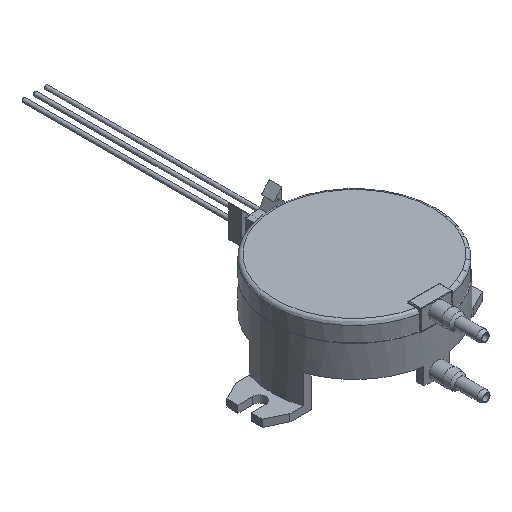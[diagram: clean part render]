
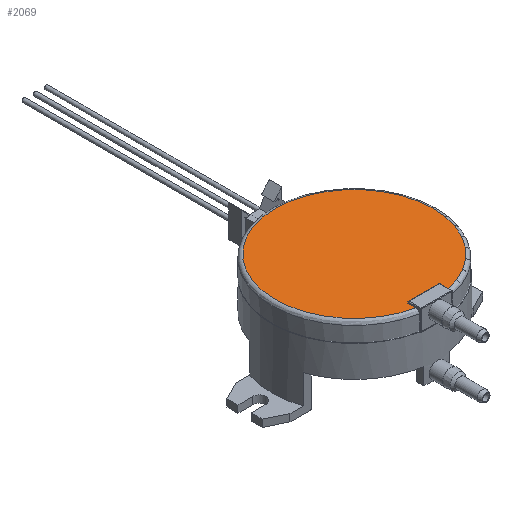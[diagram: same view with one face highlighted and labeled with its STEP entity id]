
A CAD part, isometric view. The second image highlights one B-rep face of the part: STEP entity #2069.
In plain terms, the highlighted planar face has unit normal (0, 0, 1).
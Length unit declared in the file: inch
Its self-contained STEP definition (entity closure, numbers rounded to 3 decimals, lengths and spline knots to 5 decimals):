
#94=LINE($,#3159,#282);
#97=LINE($,#3198,#285);
#98=LINE($,#3199,#286);
#282=VECTOR($,#2561,0.352);
#285=VECTOR($,#2572,0.08977);
#286=VECTOR($,#2573,0.08977);
#462=PLANE($,#2250);
#595=FACE_OUTER_BOUND($,#737,.T.);
#737=EDGE_LOOP($,(#1535,#1536,#1537,#1538));
#870=CIRCLE($,#2249,0.8825);
#968=VERTEX_POINT($,#3156);
#969=VERTEX_POINT($,#3158);
#971=VERTEX_POINT($,#3165);
#973=VERTEX_POINT($,#3189);
#1186=EDGE_CURVE($,#968,#969,#94,.T.);
#1193=EDGE_CURVE($,#973,#971,#870,.T.);
#1194=EDGE_CURVE($,#971,#968,#97,.T.);
#1195=EDGE_CURVE($,#969,#973,#98,.T.);
#1535=ORIENTED_EDGE($,*,*,#1194,.F.);
#1536=ORIENTED_EDGE($,*,*,#1193,.F.);
#1537=ORIENTED_EDGE($,*,*,#1195,.F.);
#1538=ORIENTED_EDGE($,*,*,#1186,.F.);
#2069=ADVANCED_FACE($,(#595),#462,.T.);
#2249=AXIS2_PLACEMENT_3D($,#3196,#2568,#2569);
#2250=AXIS2_PLACEMENT_3D($,#3197,#2570,#2571);
#2561=DIRECTION($,(-1.,0.,0.));
#2568=DIRECTION('center_axis',(0.,0.,-1.));
#2569=DIRECTION('ref_axis',(0.199,-0.98,0.));
#2570=DIRECTION('center_axis',(0.,0.,1.));
#2571=DIRECTION('ref_axis',(1.,0.,0.));
#2572=DIRECTION($,(0.,1.,0.));
#2573=DIRECTION($,(0.,-1.,0.));
#3156=CARTESIAN_POINT('',(26.97245,13.60614,0.55875));
#3158=CARTESIAN_POINT('',(26.62045,13.60614,0.55875));
#3159=CARTESIAN_POINT($,(26.97245,13.60614,0.55875));
#3165=CARTESIAN_POINT('',(26.97245,13.51637,0.55875));
#3189=CARTESIAN_POINT('',(26.62045,13.51637,0.55875));
#3196=CARTESIAN_POINT('Origin',(26.79645,14.38114,0.55875));
#3197=CARTESIAN_POINT('Origin',(26.79645,13.51637,0.55875));
#3198=CARTESIAN_POINT($,(26.97245,13.51637,0.55875));
#3199=CARTESIAN_POINT($,(26.62045,13.60614,0.55875));
